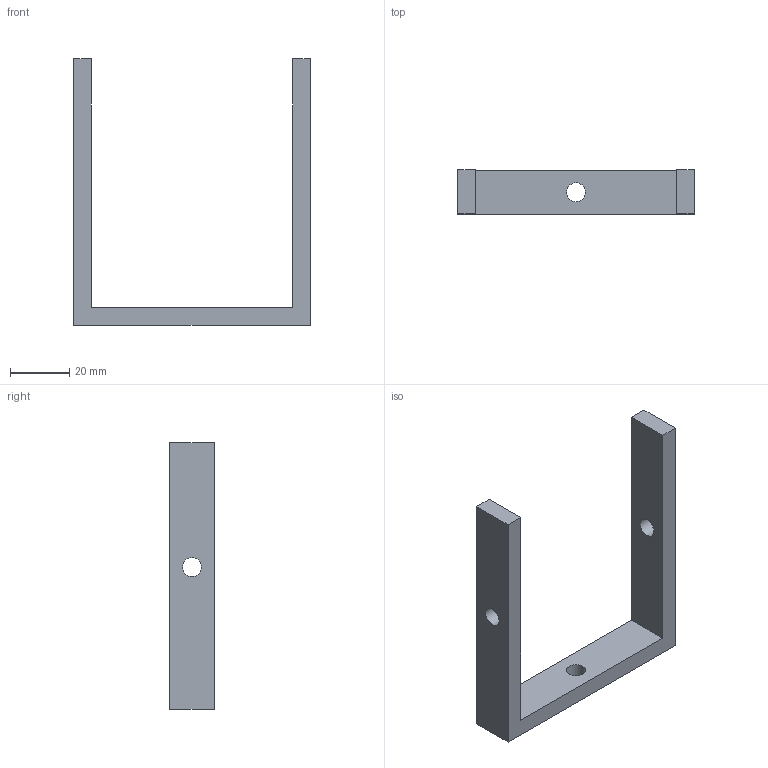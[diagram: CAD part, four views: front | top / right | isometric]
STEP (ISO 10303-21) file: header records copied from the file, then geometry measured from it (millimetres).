
FILE_DESCRIPTION(('Mechanical CAD reference from nasji.com'),'2;1');
FILE_NAME('NASJI.step','',(''),(''),'','NASJI distribution','');
FILE_SCHEMA(('AUTOMOTIVE_DESIGN { 1 0 10303 214 1 1 1 1 }'));
Length unit declared in the file: millimetre
Products named in the file (1): Open CASCADE STEP translator 7.8 133
Bounding box: 80 x 15 x 90 mm (x, y, z)
Volume: 21740.9 mm3; surface area: 10764.9 mm2
Topology: 1 solids, 1 shells, 13 faces, 33 edges, 22 vertices
Faces by surface type: plane 10, cylinder 3
Full cylindrical faces by diameter (mm): 6.4 x3
Entity records: 852 total; most frequent: CARTESIAN_POINT 163, DIRECTION 125, LINE 83, VECTOR 83, ORIENTED_EDGE 66, PCURVE 66, DEFINITIONAL_REPRESENTATION 66, EDGE_CURVE 33
